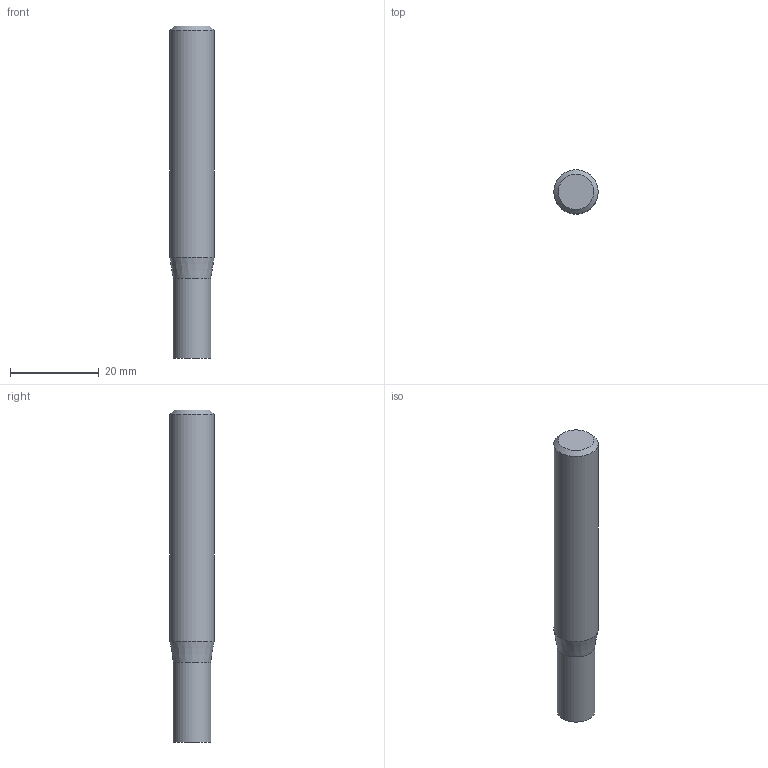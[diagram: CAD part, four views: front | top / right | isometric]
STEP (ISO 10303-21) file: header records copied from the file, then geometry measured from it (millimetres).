
FILE_DESCRIPTION((''),'2;1');
FILE_NAME('C:\Users\nsx150\AppData\Local\Temp\Mastercam 2021\98T1Q6BTT1\TEMP.step','2021-10-21T14:49:40',(''),(''),'STEP Write','Mastercam 2021 ... CNC Software, Inc.','');
FILE_SCHEMA(('AUTOMOTIVE_DESIGN'));
Length unit declared in the file: millimetre
Products named in the file (1): None
Bounding box: 10 x 10 x 75 mm (x, y, z)
Volume: 5430.5 mm3; surface area: 2491 mm2
Topology: 2 solids, 2 shells, 8 faces, 10 edges, 6 vertices
Faces by surface type: plane 4, cylinder 2, cone 2
Full cylindrical faces by diameter (mm): 8.5 x1, 10 x1
Entity records: 190 total; most frequent: DIRECTION 32, CARTESIAN_POINT 22, AXIS2_PLACEMENT_3D 16, ORIENTED_EDGE 12, EDGE_LOOP 12, STYLED_ITEM 11, ADVANCED_FACE 8, VERTEX_POINT 6
